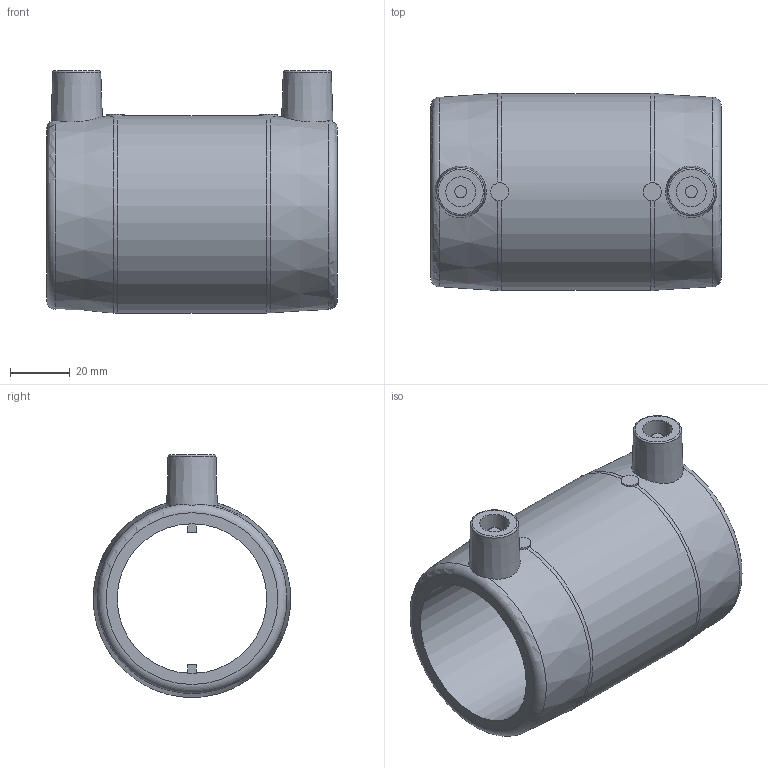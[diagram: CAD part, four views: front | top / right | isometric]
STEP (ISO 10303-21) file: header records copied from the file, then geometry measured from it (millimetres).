
FILE_DESCRIPTION(/* description */ ('Unknown'),/* implementation_level */ '2;1');
FILE_NAME(/* name */ 'MP050C',/* time_stamp */ '2021-04-29T14:47:26+02:00',/* author */ ('Unknown'),/* organization */ ('Unknown'),/* preprocessor_version */ 'ST-DEVELOPER v16.7',/* originating_system */ 'Solid Edge',/* authorisation */ 'Unknown');
FILE_SCHEMA (('AUTOMOTIVE_DESIGN {1 0 10303 214 3 1 1}'));
Length unit declared in the file: millimetre
Products named in the file (1): MP050C
Bounding box: 97 x 65.98 x 80.9 mm (x, y, z)
Volume: 138923.9 mm3; surface area: 39784.2 mm2
Topology: 1 solids, 1 shells, 42 faces, 101 edges, 66 vertices
Faces by surface type: plane 20, cylinder 12, torus 6, cone 4
Full cylindrical faces by diameter (mm): 4 x2, 6 x2, 10 x2, 50 x1, 66 x1
Entity records: 1123 total; most frequent: CARTESIAN_POINT 246, DIRECTION 182, ORIENTED_EDGE 144, AXIS2_PLACEMENT_3D 79, EDGE_CURVE 72, EDGE_LOOP 66, FACE_BOUND 66, VERTEX_POINT 54
